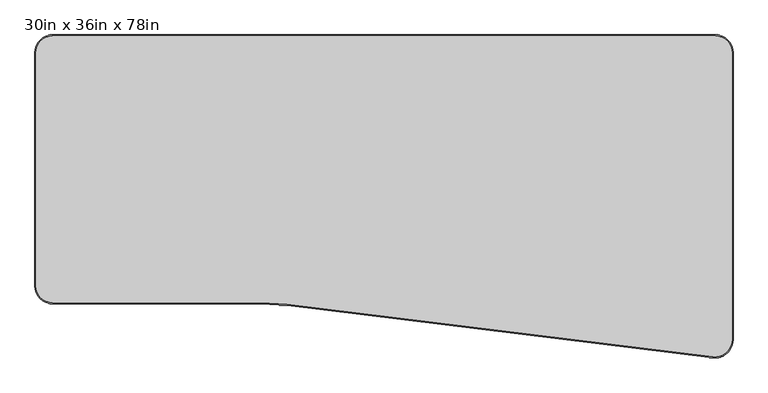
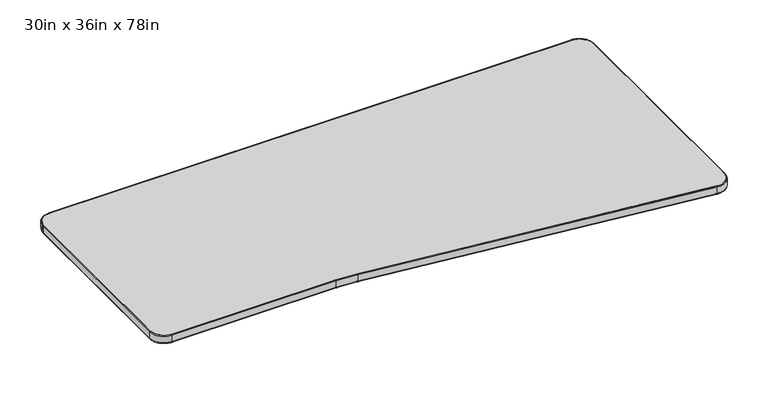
"""IFC4 building model written with IfcOpenShell, lengths in millimetres: furniture geometry, Steelcase - Answer Solution - Universal Table - Transition - Right : 30in x 36in x 78in."""

from ifc_helpers import new_model, si_unit, point, frame, frame_2d, origin, place, context, project, spatial, polyline, circle_curve, ellipse_curve, trimmed, segment, composite_curve, outline, extrude, source, transform, mapped, element, save
from ifc_brep_helpers import plane_surface, cylinder_surface, revolved_surface, advanced_brep


def furniture_30in_x_36in_x_78in_5d5ac5e1(model_context):
    return source(origin(), model_context, "Body", "SolidModel", [
        extrude(outline(composite_curve([segment(polyline([(50.8000015, -3.0479999), (1924.05, -3.0479999)]), True, "CONTINUOUS"), segment(trimmed(circle_curve(frame_2d((1924.05, -50.8000271)), 47.7520271), [point((1924.05, -3.0479999))], [point((1971.8020271, -50.8000271))], False, "CARTESIAN"), True, "CONTINUOUS"), segment(polyline([(1971.8020271, -50.8000271), (1971.8020271, -863.5999758)]), True, "CONTINUOUS"), segment(trimmed(circle_curve(frame_2d((1923.967308, -863.8293394)), 47.835269), [point((1971.8020271, -863.5999758))], [point((1918.1376552, -911.3080515))], False, "CARTESIAN"), True, "CONTINUOUS"), segment(polyline([(1918.1376552, -911.3080515), (714.3280552, -763.4988184)]), True, "CONTINUOUS"), segment(trimmed(circle_curve(frame_2d((639.9393929, -1369.3458544)), 610.3968415), [point((714.3280552, -763.4988184))], [point((639.8259893, -758.9490234))], True, "CARTESIAN"), True, "CONTINUOUS"), segment(polyline([(639.8259893, -758.9490234), (50.8000015, -758.9490234)]), True, "CONTINUOUS"), segment(trimmed(circle_curve(frame_2d((50.8000015, -711.1970219)), 47.7520016), [point((50.8000015, -758.9490234))], [point((3.0479999, -711.1970219))], False, "CARTESIAN"), True, "CONTINUOUS"), segment(polyline([(3.0479999, -711.1970219), (3.0479999, -50.8000015)]), True, "CONTINUOUS"), segment(trimmed(circle_curve(frame_2d((50.8000015, -50.8000015)), 47.7520016), [point((3.0479999, -50.8000015))], [point((50.8000015, -3.0479999))], False, "CARTESIAN"), True, "CONTINUOUS")], self_intersect=False)), frame((0.0, 0.0, 668.274), z_axis=(0.0, 0.0, 1.0), x_axis=(1.0, 0.0, 0.0)), (0.0, 0.0, 1.0), 30.0481659),
        advanced_brep(
        [(714.3280552, -763.498818, 668.1439926), (639.8259893, -758.9490231, 668.1439926), (639.8259893, -758.9490231, 698.3221659), (714.3280552, -763.498818, 698.3221659), (713.9562346, -766.5270538, 671.19497), (639.8265562, -762.0000003, 671.19497), (713.9562346, -766.5270538, 695.2711886), (639.8265562, -762.0000003, 695.2711886), (1917.5104635, -911.2310417, 698.3221659), (1917.5104635, -911.2310417, 668.1439926), (1917.1386429, -914.2592775, 671.19497), (1917.1386429, -914.2592775, 695.2711886), (1971.8020268, -863.1979241, 668.1439926), (1971.8020268, -863.1979241, 698.3221659), (1974.8530041, -863.1979241, 671.19497), (1974.8530041, -863.1979241, 695.2711886), (1971.8020268, -50.8000271, 698.3221659), (1971.8020268, -50.8000271, 668.1439926), (1974.8530041, -50.8000271, 671.19497), (1974.8530041, -50.8000271, 695.2711886), (1924.05, -3.0480003, 668.1439926), (1924.05, -3.0480003, 698.3221659), (1924.05, 0.002977, 671.19497), (1924.05, 0.002977, 695.2711886), (50.8000015, -3.0480003, 698.3221659), (50.8000015, -3.0480003, 668.1439926), (50.8000015, 0.002977, 671.19497), (50.8000015, 0.002977, 695.2711886), (3.0480003, -50.8000015, 668.1439926), (3.0480003, -50.8000015, 698.3221659), (-0.002977, -50.8000015, 671.19497), (-0.002977, -50.8000015, 695.2711886), (3.0480003, -711.1970219, 698.3221659), (3.0480003, -711.1970219, 668.1439926), (-0.002977, -711.1970219, 671.19497), (-0.002977, -711.1970219, 695.2711886), (50.8000015, -758.9490231, 668.1439926), (50.8000015, -758.9490231, 698.3221659), (50.8000015, -762.0000004, 671.19497), (50.8000015, -762.0000004, 695.2711886)],
        [
            (0, 1, circle_curve(frame((639.9393929, -1369.3458543, 668.1439926), z_axis=(0.0, 0.0, 1.0), x_axis=(-0.00018578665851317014, 0.9999999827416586, 0.0)), 610.3968418)),
            (1, 2),
            (2, 3, circle_curve(frame((639.9393929, -1369.3458543, 698.3221659), z_axis=(0.0, 0.0, -1.0), x_axis=(-0.00018578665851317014, 0.9999999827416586, 0.0)), 610.3968418)),
            (3, 0),
            (4, 5, circle_curve(frame((639.9393929, -1369.3458543, 671.19497), z_axis=(0.0, 0.0, 1.0), x_axis=(-0.00018578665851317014, 0.9999999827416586, 0.0)), 607.3458645)),
            (5, 1, circle_curve(frame((639.8259893, -758.9490231, 671.19497), z_axis=(0.9999999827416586, 0.00018578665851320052, 0.0), x_axis=(-0.00018578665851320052, 0.9999999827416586, 0.0)), 3.0509773)),
            (0, 4, circle_curve(frame((714.3280552, -763.498818, 671.19497), z_axis=(-0.9925461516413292, 0.12186934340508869, 0.0), x_axis=(0.12186934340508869, 0.9925461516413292, 0.0)), 3.0509773)),
            (6, 7, circle_curve(frame((639.9393929, -1369.3458543, 695.2711886), z_axis=(0.0, 0.0, 1.0), x_axis=(-0.00018578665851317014, 0.9999999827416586, 0.0)), 607.3458645)),
            (7, 5),
            (4, 6),
            (2, 7, circle_curve(frame((639.8259893, -758.9490231, 695.2711886), z_axis=(0.9999999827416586, 0.00018578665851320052, 0.0), x_axis=(-0.00018578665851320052, 0.9999999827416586, 0.0)), 3.0509773)),
            (6, 3, circle_curve(frame((714.3280552, -763.498818, 695.2711886), z_axis=(-0.9925461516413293, 0.12186934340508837, 0.0), x_axis=(0.12186934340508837, 0.9925461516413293, 0.0)), 3.0509773)),
            (3, 8),
            (8, 9),
            (9, 0),
            (9, 10, circle_curve(frame((1917.5104635, -911.2310417, 671.19497), z_axis=(-0.9925461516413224, 0.1218693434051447, 0.0), x_axis=(0.1218693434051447, 0.9925461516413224, 0.0)), 3.0509773)),
            (10, 4),
            (10, 11),
            (11, 6),
            (11, 8, circle_curve(frame((1917.5104635, -911.2310417, 695.2711886), z_axis=(-0.9925461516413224, 0.1218693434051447, 0.0), x_axis=(0.1218693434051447, 0.9925461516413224, 0.0)), 3.0509773)),
            (12, 9, circle_curve(frame((1923.4081888, -863.1979241, 668.1439926), z_axis=(0.0, 0.0, -1.0), x_axis=(-0.1218693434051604, -0.9925461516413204, 0.0)), 48.393838)),
            (8, 13, circle_curve(frame((1923.4081888, -863.1979241, 698.3221659), z_axis=(0.0, 0.0, 1.0), x_axis=(-0.1218693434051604, -0.9925461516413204, 0.0)), 48.393838)),
            (13, 12),
            (14, 10, circle_curve(frame((1923.4081888, -863.1979241, 671.19497), z_axis=(0.0, 0.0, -1.0), x_axis=(-0.1218693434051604, -0.9925461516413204, 0.0)), 51.4448153)),
            (12, 14, circle_curve(frame((1971.8020268, -863.1979241, 671.19497), z_axis=(0.0, -1.0, 0.0), x_axis=(-1.0, 0.0, 0.0)), 3.0509773)),
            (15, 11, circle_curve(frame((1923.4081888, -863.1979241, 695.2711886), z_axis=(0.0, 0.0, -1.0), x_axis=(-0.1218693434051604, -0.9925461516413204, 0.0)), 51.4448153)),
            (14, 15),
            (15, 13, circle_curve(frame((1971.8020268, -863.1979241, 695.2711886), z_axis=(0.0, -1.0, 0.0), x_axis=(-1.0, 0.0, 0.0)), 3.0509773)),
            (13, 16),
            (16, 17),
            (17, 12),
            (17, 18, circle_curve(frame((1971.8020268, -50.8000271, 671.19497), z_axis=(0.0, -1.0, 0.0), x_axis=(-1.0, 0.0, 0.0)), 3.0509773)),
            (18, 14),
            (18, 19),
            (19, 15),
            (19, 16, circle_curve(frame((1971.8020268, -50.8000271, 695.2711886), z_axis=(0.0, -1.0, 0.0), x_axis=(-1.0, 0.0, 0.0)), 3.0509773)),
            (20, 17, circle_curve(frame((1924.05, -50.8000271, 668.1439926), z_axis=(0.0, 0.0, -1.0), x_axis=(1.0, 0.0, 0.0)), 47.7520268)),
            (16, 21, circle_curve(frame((1924.05, -50.8000271, 698.3221659), z_axis=(0.0, 0.0, 1.0), x_axis=(1.0, 0.0, 0.0)), 47.7520268)),
            (21, 20),
            (22, 18, circle_curve(frame((1924.05, -50.8000271, 671.19497), z_axis=(0.0, 0.0, -1.0), x_axis=(1.0, 0.0, 0.0)), 50.8030041)),
            (20, 22, circle_curve(frame((1924.05, -3.0480003, 671.19497), z_axis=(1.0, 0.0, 0.0), x_axis=(0.0, -1.0, 0.0)), 3.0509773)),
            (23, 19, circle_curve(frame((1924.05, -50.8000271, 695.2711886), z_axis=(0.0, 0.0, -1.0), x_axis=(1.0, 0.0, 0.0)), 50.8030041)),
            (22, 23),
            (23, 21, circle_curve(frame((1924.05, -3.0480003, 695.2711886), z_axis=(1.0, 0.0, 0.0), x_axis=(0.0, -1.0, 0.0)), 3.0509773)),
            (21, 24),
            (24, 25),
            (25, 20),
            (25, 26, circle_curve(frame((50.8000015, -3.0480003, 671.19497), z_axis=(1.0, 0.0, 0.0), x_axis=(0.0, -1.0, 0.0)), 3.0509773)),
            (26, 22),
            (26, 27),
            (27, 23),
            (27, 24, circle_curve(frame((50.8000015, -3.0480003, 695.2711886), z_axis=(1.0, 0.0, 0.0), x_axis=(0.0, -1.0, 0.0)), 3.0509773)),
            (28, 25, circle_curve(frame((50.8000015, -50.8000015, 668.1439926), z_axis=(0.0, 0.0, -1.0), x_axis=(0.0, 1.0, 0.0)), 47.7520012)),
            (24, 29, circle_curve(frame((50.8000015, -50.8000015, 698.3221659), z_axis=(0.0, 0.0, 1.0), x_axis=(0.0, 1.0, 0.0)), 47.7520012)),
            (29, 28),
            (30, 26, circle_curve(frame((50.8000015, -50.8000015, 671.19497), z_axis=(0.0, 0.0, -1.0), x_axis=(0.0, 1.0, 0.0)), 50.8029785)),
            (28, 30, circle_curve(frame((3.0480003, -50.8000015, 671.19497), z_axis=(0.0, 1.0, 0.0), x_axis=(1.0, 0.0, 0.0)), 3.0509773)),
            (31, 27, circle_curve(frame((50.8000015, -50.8000015, 695.2711886), z_axis=(0.0, 0.0, -1.0), x_axis=(0.0, 1.0, 0.0)), 50.8029785)),
            (30, 31),
            (31, 29, circle_curve(frame((3.0480003, -50.8000015, 695.2711886), z_axis=(0.0, 1.0, 0.0), x_axis=(1.0, 0.0, 0.0)), 3.0509773)),
            (29, 32),
            (32, 33),
            (33, 28),
            (33, 34, circle_curve(frame((3.0480003, -711.1970219, 671.19497), z_axis=(0.0, 1.0, 0.0), x_axis=(1.0, 0.0, 0.0)), 3.0509773)),
            (34, 30),
            (34, 35),
            (35, 31),
            (35, 32, circle_curve(frame((3.0480003, -711.1970219, 695.2711886), z_axis=(0.0, 1.0, 0.0), x_axis=(1.0, 0.0, 0.0)), 3.0509773)),
            (36, 33, circle_curve(frame((50.8000015, -711.1970219, 668.1439926), z_axis=(0.0, 0.0, -1.0), x_axis=(-1.0, 0.0, 0.0)), 47.7520012)),
            (32, 37, circle_curve(frame((50.8000015, -711.1970219, 698.3221659), z_axis=(0.0, 0.0, 1.0), x_axis=(-1.0, 0.0, 0.0)), 47.7520012)),
            (37, 36),
            (38, 34, circle_curve(frame((50.8000015, -711.1970219, 671.19497), z_axis=(0.0, 0.0, -1.0), x_axis=(-1.0, 0.0, 0.0)), 50.8029785)),
            (36, 38, circle_curve(frame((50.8000015, -758.9490231, 671.19497), z_axis=(-1.0, 0.0, 0.0), x_axis=(0.0, 1.0, 0.0)), 3.0509773)),
            (39, 35, circle_curve(frame((50.8000015, -711.1970219, 695.2711886), z_axis=(0.0, 0.0, -1.0), x_axis=(-1.0, 0.0, 0.0)), 50.8029785)),
            (38, 39),
            (39, 37, circle_curve(frame((50.8000015, -758.9490231, 695.2711886), z_axis=(-1.0, 0.0, 0.0), x_axis=(0.0, 1.0, 0.0)), 3.0509773)),
            (37, 2),
            (1, 36),
            (5, 38),
            (7, 39),
        ],
        [
            cylinder_surface(frame((639.9393929, -1369.3458543, 0.0), z_axis=(0.0, 0.0, -1.0), x_axis=(-0.00018578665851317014, 0.9999999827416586, 0.0)), 610.3968418),
            revolved_surface(trimmed(ellipse_curve(frame((639.8259893, -758.9490231, 671.19497), z_axis=(-0.9999999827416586, -0.00018578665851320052, 0.0), x_axis=(-0.00018578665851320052, 0.9999999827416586, 0.0)), 3.0509773, 3.0509773), [point((639.8259893, -758.9490231, 668.1439926))], [point((639.8265562, -762.0000003, 671.19497))], True, "CARTESIAN"), (639.9393929, -1369.3458543, 0.0), (0.0, 0.0, -1.0)),
            revolved_surface(polyline([(639.8265561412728, -762.0000002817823, 671.19497), (639.8265561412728, -762.0000002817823, 695.2711886)]), (639.9393929, -1369.3458543, 0.0), (0.0, 0.0, -1.0)),
            revolved_surface(trimmed(ellipse_curve(frame((639.8259893, -758.9490231, 695.2711886), z_axis=(-0.9999999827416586, -0.00018578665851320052, 0.0), x_axis=(-0.00018578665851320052, 0.9999999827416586, 0.0)), 3.0509773, 3.0509773), [point((639.8265562, -762.0000003, 695.2711886))], [point((639.8259893, -758.9490231, 698.3221659))], True, "CARTESIAN"), (639.9393929, -1369.3458543, 0.0), (0.0, 0.0, -1.0)),
            plane_surface(frame((714.3280552, -763.498818, 698.3221659), z_axis=(0.12186934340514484, 0.9925461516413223, 0.0), x_axis=(0.9925461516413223, -0.12186934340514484, 0.0))),
            cylinder_surface(frame((714.3280552, -763.498818, 671.19497), z_axis=(-0.9925461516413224, 0.1218693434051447, 0.0), x_axis=(0.1218693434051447, 0.9925461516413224, 0.0)), 3.0509773),
            plane_surface(frame((713.9562346, -766.5270538, 671.19497), z_axis=(-0.12186934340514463, -0.9925461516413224, 0.0), x_axis=(0.9925461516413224, -0.12186934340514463, 0.0))),
            cylinder_surface(frame((714.3280552, -763.498818, 695.2711886), z_axis=(-0.9925461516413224, 0.1218693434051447, 0.0), x_axis=(0.1218693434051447, 0.9925461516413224, 0.0)), 3.0509773),
            revolved_surface(polyline([(1917.5104635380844, -911.2310417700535, 698.3221659), (1917.5104635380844, -911.2310417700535, 668.1439926)]), (1923.4081888, -863.1979241, 0.0), (0.0, 0.0, 1.0)),
            revolved_surface(trimmed(ellipse_curve(frame((1917.5104635, -911.2310417, 671.19497), z_axis=(-0.9925461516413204, 0.12186934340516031, 0.0), x_axis=(0.12186934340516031, 0.9925461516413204, 0.0)), 3.0509773, 3.0509773), [point((1917.5104635, -911.2310417, 668.1439926))], [point((1917.1386429, -914.2592775, 671.19497))], True, "CARTESIAN"), (1923.4081888, -863.1979241, 0.0), (0.0, 0.0, 1.0)),
            cylinder_surface(frame((1923.4081888, -863.1979241, 0.0), z_axis=(0.0, 0.0, 1.0), x_axis=(-0.1218693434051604, -0.9925461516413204, 0.0)), 51.4448153),
            revolved_surface(trimmed(ellipse_curve(frame((1917.5104635, -911.2310417, 695.2711886), z_axis=(-0.9925461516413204, 0.12186934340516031, 0.0), x_axis=(0.12186934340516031, 0.9925461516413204, 0.0)), 3.0509773, 3.0509773), [point((1917.1386429, -914.2592775, 695.2711886))], [point((1917.5104635, -911.2310417, 698.3221659))], True, "CARTESIAN"), (1923.4081888, -863.1979241, 0.0), (0.0, 0.0, 1.0)),
            plane_surface(frame((1971.8020268, -863.1979241, 698.3221659), z_axis=(-1.0, 0.0, 0.0), x_axis=(0.0, 1.0, 0.0))),
            cylinder_surface(frame((1971.8020268, -863.1979241, 671.19497), z_axis=(0.0, -1.0, 0.0), x_axis=(-1.0, 0.0, 0.0)), 3.0509773),
            plane_surface(frame((1974.8530041, -863.1979241, 671.19497), z_axis=(1.0, 0.0, 0.0), x_axis=(0.0, 1.0, 0.0))),
            cylinder_surface(frame((1971.8020268, -863.1979241, 695.2711886), z_axis=(0.0, -1.0, 0.0), x_axis=(-1.0, 0.0, 0.0)), 3.0509773),
            revolved_surface(polyline([(1971.8020268, -50.8000271, 698.3221659), (1971.8020268, -50.8000271, 668.1439926)]), (1924.05, -50.8000271, 0.0), (0.0, 0.0, 1.0)),
            revolved_surface(trimmed(ellipse_curve(frame((1971.8020268, -50.8000271, 671.19497), z_axis=(0.0, -1.0, 0.0), x_axis=(-1.0, 0.0, 0.0)), 3.0509773, 3.0509773), [point((1971.8020268, -50.8000271, 668.1439926))], [point((1974.8530041, -50.8000271, 671.19497))], True, "CARTESIAN"), (1924.05, -50.8000271, 0.0), (0.0, 0.0, 1.0)),
            cylinder_surface(frame((1924.05, -50.8000271, 0.0), z_axis=(0.0, 0.0, 1.0), x_axis=(1.0, 0.0, 0.0)), 50.8030041),
            revolved_surface(trimmed(ellipse_curve(frame((1971.8020268, -50.8000271, 695.2711886), z_axis=(0.0, -1.0, 0.0), x_axis=(-1.0, 0.0, 0.0)), 3.0509773, 3.0509773), [point((1974.8530041, -50.8000271, 695.2711886))], [point((1971.8020268, -50.8000271, 698.3221659))], True, "CARTESIAN"), (1924.05, -50.8000271, 0.0), (0.0, 0.0, 1.0)),
            plane_surface(frame((1924.05, -3.0480003, 698.3221659), z_axis=(0.0, -1.0, 0.0), x_axis=(-1.0, 0.0, 0.0))),
            cylinder_surface(frame((1924.05, -3.0480003, 671.19497), z_axis=(1.0, 0.0, 0.0), x_axis=(0.0, -1.0, 0.0)), 3.0509773),
            plane_surface(frame((1924.05, 0.002977, 671.19497), z_axis=(0.0, 1.0, 0.0), x_axis=(-1.0, 0.0, 0.0))),
            cylinder_surface(frame((1924.05, -3.0480003, 695.2711886), z_axis=(1.0, 0.0, 0.0), x_axis=(0.0, -1.0, 0.0)), 3.0509773),
            revolved_surface(polyline([(50.8000015, -3.048000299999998, 698.3221659), (50.8000015, -3.048000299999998, 668.1439926)]), (50.8000015, -50.8000015, 0.0), (0.0, 0.0, 1.0)),
            revolved_surface(trimmed(ellipse_curve(frame((50.8000015, -3.0480003, 671.19497), z_axis=(1.0, 0.0, 0.0), x_axis=(0.0, -1.0, 0.0)), 3.0509773, 3.0509773), [point((50.8000015, -3.0480003, 668.1439926))], [point((50.8000015, 0.002977, 671.19497))], True, "CARTESIAN"), (50.8000015, -50.8000015, 0.0), (0.0, 0.0, 1.0)),
            cylinder_surface(frame((50.8000015, -50.8000015, 0.0), z_axis=(0.0, 0.0, 1.0), x_axis=(0.0, 1.0, 0.0)), 50.8029785),
            revolved_surface(trimmed(ellipse_curve(frame((50.8000015, -3.0480003, 695.2711886), z_axis=(1.0, 0.0, 0.0), x_axis=(0.0, -1.0, 0.0)), 3.0509773, 3.0509773), [point((50.8000015, 0.002977, 695.2711886))], [point((50.8000015, -3.0480003, 698.3221659))], True, "CARTESIAN"), (50.8000015, -50.8000015, 0.0), (0.0, 0.0, 1.0)),
            plane_surface(frame((3.0480003, -50.8000015, 698.3221659), z_axis=(1.0, 0.0, 0.0), x_axis=(0.0, -1.0, 0.0))),
            cylinder_surface(frame((3.0480003, -50.8000015, 671.19497), z_axis=(0.0, 1.0, 0.0), x_axis=(1.0, 0.0, 0.0)), 3.0509773),
            plane_surface(frame((-0.002977, -50.8000015, 671.19497), z_axis=(-1.0, 0.0, 0.0), x_axis=(0.0, -1.0, 0.0))),
            cylinder_surface(frame((3.0480003, -50.8000015, 695.2711886), z_axis=(0.0, 1.0, 0.0), x_axis=(1.0, 0.0, 0.0)), 3.0509773),
            revolved_surface(polyline([(3.048000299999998, -711.1970219, 698.3221659), (3.048000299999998, -711.1970219, 668.1439926)]), (50.8000015, -711.1970219, 0.0), (0.0, 0.0, 1.0)),
            revolved_surface(trimmed(ellipse_curve(frame((3.0480003, -711.1970219, 671.19497), z_axis=(0.0, 1.0, 0.0), x_axis=(1.0, 0.0, 0.0)), 3.0509773, 3.0509773), [point((3.0480003, -711.1970219, 668.1439926))], [point((-0.002977, -711.1970219, 671.19497))], True, "CARTESIAN"), (50.8000015, -711.1970219, 0.0), (0.0, 0.0, 1.0)),
            cylinder_surface(frame((50.8000015, -711.1970219, 0.0), z_axis=(0.0, 0.0, 1.0), x_axis=(-1.0, 0.0, 0.0)), 50.8029785),
            revolved_surface(trimmed(ellipse_curve(frame((3.0480003, -711.1970219, 695.2711886), z_axis=(0.0, 1.0, 0.0), x_axis=(1.0, 0.0, 0.0)), 3.0509773, 3.0509773), [point((-0.002977, -711.1970219, 695.2711886))], [point((3.0480003, -711.1970219, 698.3221659))], True, "CARTESIAN"), (50.8000015, -711.1970219, 0.0), (0.0, 0.0, 1.0)),
            plane_surface(frame((50.8000015, -758.9490231, 698.3221659), z_axis=(0.0, 1.0, 0.0), x_axis=(1.0, 0.0, 0.0))),
            cylinder_surface(frame((50.8000015, -758.9490231, 671.19497), z_axis=(-1.0, 0.0, 0.0), x_axis=(0.0, 1.0, 0.0)), 3.0509773),
            plane_surface(frame((50.8000015, -762.0000004, 671.19497), z_axis=(0.0, -1.0, 0.0), x_axis=(1.0, 0.0, 0.0))),
            cylinder_surface(frame((50.8000015, -758.9490231, 695.2711886), z_axis=(-1.0, 0.0, 0.0), x_axis=(0.0, 1.0, 0.0)), 3.0509773),
        ],
        [
            (0, [[1, 2, 3, 4]]),
            (1, [[5, 6, -1, 7]]),
            (2, [[8, 9, -5, 10]]),
            (3, [[-3, 11, -8, 12]]),
            (4, [[-4, 13, 14, 15]]),
            (5, [[-7, -15, 16, 17]]),
            (6, [[-10, -17, 18, 19]]),
            (7, [[-12, -19, 20, -13]]),
            (8, [[21, -14, 22, 23]]),
            (9, [[24, -16, -21, 25]]),
            (10, [[26, -18, -24, 27]]),
            (11, [[-22, -20, -26, 28]]),
            (12, [[-23, 29, 30, 31]]),
            (13, [[-25, -31, 32, 33]]),
            (14, [[-27, -33, 34, 35]]),
            (15, [[-28, -35, 36, -29]]),
            (16, [[37, -30, 38, 39]]),
            (17, [[40, -32, -37, 41]]),
            (18, [[42, -34, -40, 43]]),
            (19, [[-38, -36, -42, 44]]),
            (20, [[-39, 45, 46, 47]]),
            (21, [[-41, -47, 48, 49]]),
            (22, [[-43, -49, 50, 51]]),
            (23, [[-44, -51, 52, -45]]),
            (24, [[53, -46, 54, 55]]),
            (25, [[56, -48, -53, 57]]),
            (26, [[58, -50, -56, 59]]),
            (27, [[-54, -52, -58, 60]]),
            (28, [[-55, 61, 62, 63]]),
            (29, [[-57, -63, 64, 65]]),
            (30, [[-59, -65, 66, 67]]),
            (31, [[-60, -67, 68, -61]]),
            (32, [[69, -62, 70, 71]]),
            (33, [[72, -64, -69, 73]]),
            (34, [[74, -66, -72, 75]]),
            (35, [[-70, -68, -74, 76]]),
            (36, [[-71, 77, -2, 78]]),
            (37, [[-73, -78, -6, 79]]),
            (38, [[-75, -79, -9, 80]]),
            (39, [[-76, -80, -11, -77]]),
        ],
    ),
    ])


if __name__ == "__main__":
    model = new_model("IFC4")
    model_context = context("Model", 3, world=origin())
    ifc_project = project(units=[si_unit("LENGTHUNIT", "METRE", prefix="MILLI")], contexts=[model_context])
    site = spatial("IfcSite", under=ifc_project)
    building = spatial("IfcBuilding", under=site)
    placement = place(None, origin())
    furniture_30in_x_36in_x_78in_shape = furniture_30in_x_36in_x_78in_5d5ac5e1(model_context)
    element("IfcFurniture", 1, ObjectType="Steelcase - Answer Solution - Universal Table - Transition - Right : 30in x 36in x 78in", at=placement, inside=building, context=model_context, shape_type="MappedRepresentation", body=[
        mapped(furniture_30in_x_36in_x_78in_shape, transform((0.0, 0.0, 0.0), x_axis=(1.0, 0.0, 0.0), y_axis=(0.0, 1.0, 0.0), z_axis=(0.0, 0.0, 1.0))),
    ])
    save(model, "model.ifc")
